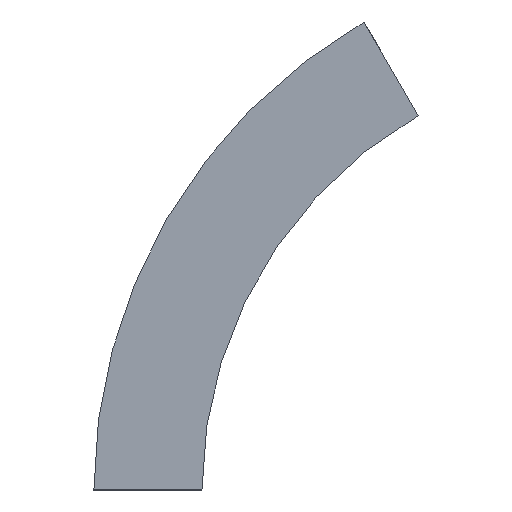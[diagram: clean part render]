
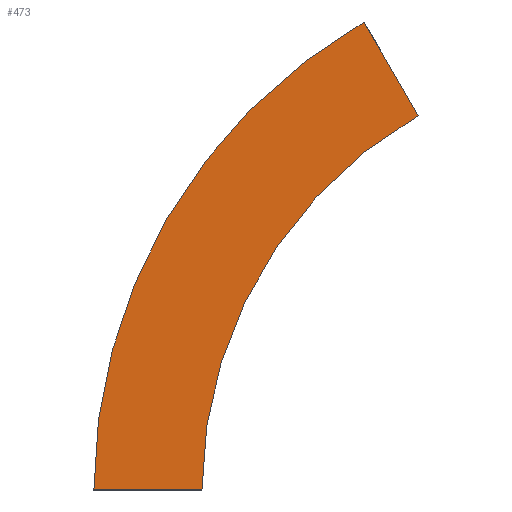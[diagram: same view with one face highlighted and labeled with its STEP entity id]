
A CAD part, left-side view. The second image highlights one B-rep face of the part: STEP entity #473.
In plain terms, the highlighted planar face has unit normal (-1, 0, 0) as drawn and (1, 0, 0) by its records, which use the part's own axes.
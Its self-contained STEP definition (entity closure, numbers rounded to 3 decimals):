
#12 = EDGE_CURVE ( 'NONE', #49, #121, #484, .T. ) ;
#14 = VERTEX_POINT ( 'NONE', #248 ) ;
#34 = LINE ( 'NONE', #231, #524 ) ;
#46 = CARTESIAN_POINT ( 'NONE',  ( 0., 0., 0. ) ) ;
#49 = VERTEX_POINT ( 'NONE', #207 ) ;
#50 = ORIENTED_EDGE ( 'NONE', *, *, #325, .F. ) ;
#61 = CIRCLE ( 'NONE', #353, 300. ) ;
#80 = DIRECTION ( 'NONE',  ( 0., 0.5, 0.866 ) ) ;
#121 = VERTEX_POINT ( 'NONE', #542 ) ;
#148 = ORIENTED_EDGE ( 'NONE', *, *, #426, .T. ) ;
#170 = CARTESIAN_POINT ( 'NONE',  ( 0., 0., 0. ) ) ;
#181 = DIRECTION ( 'NONE',  ( 0., 1., 0. ) ) ;
#202 = DIRECTION ( 'NONE',  ( 1., 0., 0. ) ) ;
#207 = CARTESIAN_POINT ( 'NONE',  ( 0., 75., 0. ) ) ;
#231 = CARTESIAN_POINT ( 'NONE',  ( 0., 0., 0. ) ) ;
#236 = DIRECTION ( 'NONE',  ( 0., 1., 0. ) ) ;
#248 = CARTESIAN_POINT ( 'NONE',  ( 0., -150., 259.808 ) ) ;
#324 = EDGE_LOOP ( 'NONE', ( #487, #50, #376, #148 ) ) ;
#325 = EDGE_CURVE ( 'NONE', #14, #121, #344, .T. ) ;
#336 = VERTEX_POINT ( 'NONE', #170 ) ;
#342 = CARTESIAN_POINT ( 'NONE',  ( 0., -150., 259.808 ) ) ;
#344 = LINE ( 'NONE', #342, #412 ) ;
#350 = PLANE ( 'NONE',  #446 ) ;
#353 = AXIS2_PLACEMENT_3D ( 'NONE', #455, #202, #530 ) ;
#376 = ORIENTED_EDGE ( 'NONE', *, *, #464, .F. ) ;
#399 = CARTESIAN_POINT ( 'NONE',  ( 0., -300., 0. ) ) ;
#400 = DIRECTION ( 'NONE',  ( 0., 0., -1. ) ) ;
#412 = VECTOR ( 'NONE', #80, 1000. ) ;
#426 = EDGE_CURVE ( 'NONE', #336, #49, #34, .T. ) ;
#445 = FACE_OUTER_BOUND ( 'NONE', #324, .T. ) ;
#446 = AXIS2_PLACEMENT_3D ( 'NONE', #46, #525, #400 ) ;
#453 = DIRECTION ( 'NONE',  ( 1., 0., 0. ) ) ;
#455 = CARTESIAN_POINT ( 'NONE',  ( 0., -300., 0. ) ) ;
#464 = EDGE_CURVE ( 'NONE', #336, #14, #61, .T. ) ;
#473 = ADVANCED_FACE ( 'NONE', ( #445 ), #350, .T. ) ;
#484 = CIRCLE ( 'NONE', #498, 375. ) ;
#487 = ORIENTED_EDGE ( 'NONE', *, *, #12, .T. ) ;
#498 = AXIS2_PLACEMENT_3D ( 'NONE', #399, #453, #236 ) ;
#524 = VECTOR ( 'NONE', #181, 1000. ) ;
#525 = DIRECTION ( 'NONE',  ( 1., 0., 0. ) ) ;
#530 = DIRECTION ( 'NONE',  ( 0., 1., 0. ) ) ;
#542 = CARTESIAN_POINT ( 'NONE',  ( 0., -112.5, 324.76 ) ) ;
